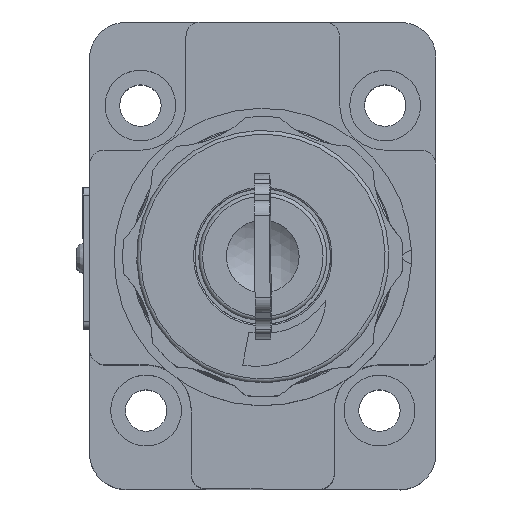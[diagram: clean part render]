
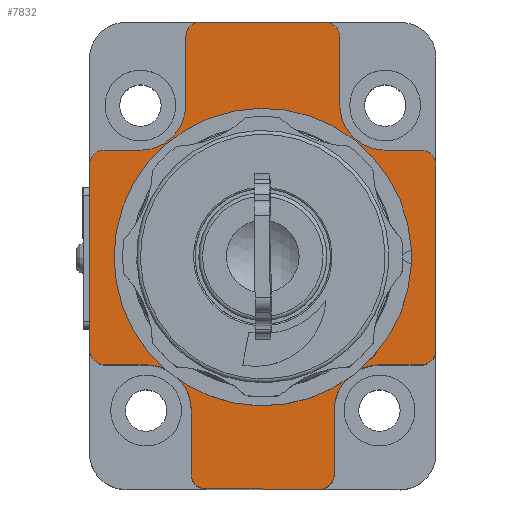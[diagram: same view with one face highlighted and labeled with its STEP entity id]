
A CAD part, top view. The second image highlights one B-rep face of the part: STEP entity #7832.
In plain terms, the highlighted planar face has unit normal (0, 0, 1).
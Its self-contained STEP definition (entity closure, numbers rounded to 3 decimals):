
#1129=PLANE('',#9496);
#1477=LINE('',#13211,#2039);
#1478=LINE('',#13215,#2040);
#1479=LINE('',#13219,#2041);
#1480=LINE('',#13223,#2042);
#1481=LINE('',#13227,#2043);
#1482=LINE('',#13231,#2044);
#1483=LINE('',#13235,#2045);
#1484=LINE('',#13239,#2046);
#1485=LINE('',#13243,#2047);
#1486=LINE('',#13247,#2048);
#1487=LINE('',#13251,#2049);
#1488=LINE('',#13255,#2050);
#2039=VECTOR('',#10732,1.);
#2040=VECTOR('',#10735,1.);
#2041=VECTOR('',#10738,1.);
#2042=VECTOR('',#10741,1.);
#2043=VECTOR('',#10744,1.);
#2044=VECTOR('',#10747,1.);
#2045=VECTOR('',#10750,1.);
#2046=VECTOR('',#10753,1.);
#2047=VECTOR('',#10756,1.);
#2048=VECTOR('',#10759,1.);
#2049=VECTOR('',#10762,1.);
#2050=VECTOR('',#10765,1.);
#2620=EDGE_LOOP('',(#3739));
#2621=EDGE_LOOP('',(#3740));
#2622=EDGE_LOOP('',(#3741,#3742,#3743,#3744,#3745,#3746,#3747,#3748,#3749,
#3750,#3751,#3752,#3753,#3754,#3755,#3756,#3757,#3758,#3759,#3760,#3761,
#3762,#3763,#3764));
#3739=ORIENTED_EDGE('',*,*,#5596,.T.);
#3740=ORIENTED_EDGE('',*,*,#5597,.T.);
#3741=ORIENTED_EDGE('',*,*,#5598,.T.);
#3742=ORIENTED_EDGE('',*,*,#5599,.T.);
#3743=ORIENTED_EDGE('',*,*,#5600,.T.);
#3744=ORIENTED_EDGE('',*,*,#5601,.T.);
#3745=ORIENTED_EDGE('',*,*,#5602,.T.);
#3746=ORIENTED_EDGE('',*,*,#5603,.T.);
#3747=ORIENTED_EDGE('',*,*,#5604,.T.);
#3748=ORIENTED_EDGE('',*,*,#5605,.T.);
#3749=ORIENTED_EDGE('',*,*,#5606,.T.);
#3750=ORIENTED_EDGE('',*,*,#5607,.T.);
#3751=ORIENTED_EDGE('',*,*,#5608,.T.);
#3752=ORIENTED_EDGE('',*,*,#5609,.T.);
#3753=ORIENTED_EDGE('',*,*,#5610,.T.);
#3754=ORIENTED_EDGE('',*,*,#5611,.T.);
#3755=ORIENTED_EDGE('',*,*,#5612,.T.);
#3756=ORIENTED_EDGE('',*,*,#5613,.T.);
#3757=ORIENTED_EDGE('',*,*,#5614,.T.);
#3758=ORIENTED_EDGE('',*,*,#5615,.T.);
#3759=ORIENTED_EDGE('',*,*,#5616,.T.);
#3760=ORIENTED_EDGE('',*,*,#5617,.T.);
#3761=ORIENTED_EDGE('',*,*,#5618,.T.);
#3762=ORIENTED_EDGE('',*,*,#5619,.T.);
#3763=ORIENTED_EDGE('',*,*,#5620,.T.);
#3764=ORIENTED_EDGE('',*,*,#5621,.T.);
#5596=EDGE_CURVE('',#8686,#8686,#6472,.T.);
#5597=EDGE_CURVE('',#8687,#8687,#6473,.T.);
#5598=EDGE_CURVE('',#8688,#8689,#6474,.T.);
#5599=EDGE_CURVE('',#8689,#8690,#1477,.T.);
#5600=EDGE_CURVE('',#8690,#8691,#6475,.T.);
#5601=EDGE_CURVE('',#8691,#8692,#1478,.T.);
#5602=EDGE_CURVE('',#8692,#8693,#6476,.T.);
#5603=EDGE_CURVE('',#8693,#8694,#1479,.T.);
#5604=EDGE_CURVE('',#8694,#8695,#6477,.T.);
#5605=EDGE_CURVE('',#8695,#8696,#1480,.T.);
#5606=EDGE_CURVE('',#8696,#8697,#6478,.T.);
#5607=EDGE_CURVE('',#8697,#8698,#1481,.T.);
#5608=EDGE_CURVE('',#8698,#8699,#6479,.T.);
#5609=EDGE_CURVE('',#8699,#8700,#1482,.T.);
#5610=EDGE_CURVE('',#8700,#8701,#6480,.T.);
#5611=EDGE_CURVE('',#8701,#8702,#1483,.T.);
#5612=EDGE_CURVE('',#8702,#8703,#6481,.T.);
#5613=EDGE_CURVE('',#8703,#8704,#1484,.T.);
#5614=EDGE_CURVE('',#8704,#8705,#6482,.T.);
#5615=EDGE_CURVE('',#8705,#8706,#1485,.T.);
#5616=EDGE_CURVE('',#8706,#8707,#6483,.T.);
#5617=EDGE_CURVE('',#8707,#8708,#1486,.T.);
#5618=EDGE_CURVE('',#8708,#8709,#6484,.T.);
#5619=EDGE_CURVE('',#8709,#8710,#1487,.T.);
#5620=EDGE_CURVE('',#8710,#8711,#6485,.T.);
#5621=EDGE_CURVE('',#8711,#8688,#1488,.T.);
#6472=CIRCLE('',#9482,1.5);
#6473=CIRCLE('',#9483,13.);
#6474=CIRCLE('',#9484,2.051);
#6475=CIRCLE('',#9485,1.957);
#6476=CIRCLE('',#9486,5.981);
#6477=CIRCLE('',#9487,1.915);
#6478=CIRCLE('',#9488,2.135);
#6479=CIRCLE('',#9489,5.998);
#6480=CIRCLE('',#9490,1.991);
#6481=CIRCLE('',#9491,2.033);
#6482=CIRCLE('',#9492,6.);
#6483=CIRCLE('',#9493,1.968);
#6484=CIRCLE('',#9494,2.003);
#6485=CIRCLE('',#9495,6.058);
#7832=ADVANCED_FACE('',(#8259,#8260,#8261),#1129,.T.);
#8259=FACE_BOUND('',#2620,.T.);
#8260=FACE_BOUND('',#2621,.T.);
#8261=FACE_BOUND('',#2622,.T.);
#8686=VERTEX_POINT('',#13205);
#8687=VERTEX_POINT('',#13207);
#8688=VERTEX_POINT('',#13209);
#8689=VERTEX_POINT('',#13210);
#8690=VERTEX_POINT('',#13212);
#8691=VERTEX_POINT('',#13214);
#8692=VERTEX_POINT('',#13216);
#8693=VERTEX_POINT('',#13218);
#8694=VERTEX_POINT('',#13220);
#8695=VERTEX_POINT('',#13222);
#8696=VERTEX_POINT('',#13224);
#8697=VERTEX_POINT('',#13226);
#8698=VERTEX_POINT('',#13228);
#8699=VERTEX_POINT('',#13230);
#8700=VERTEX_POINT('',#13232);
#8701=VERTEX_POINT('',#13234);
#8702=VERTEX_POINT('',#13236);
#8703=VERTEX_POINT('',#13238);
#8704=VERTEX_POINT('',#13240);
#8705=VERTEX_POINT('',#13242);
#8706=VERTEX_POINT('',#13244);
#8707=VERTEX_POINT('',#13246);
#8708=VERTEX_POINT('',#13248);
#8709=VERTEX_POINT('',#13250);
#8710=VERTEX_POINT('',#13252);
#8711=VERTEX_POINT('',#13254);
#9482=AXIS2_PLACEMENT_3D('',#13204,#10726,#10727);
#9483=AXIS2_PLACEMENT_3D('',#13206,#10728,#10729);
#9484=AXIS2_PLACEMENT_3D('',#13208,#10730,#10731);
#9485=AXIS2_PLACEMENT_3D('',#13213,#10733,#10734);
#9486=AXIS2_PLACEMENT_3D('',#13217,#10736,#10737);
#9487=AXIS2_PLACEMENT_3D('',#13221,#10739,#10740);
#9488=AXIS2_PLACEMENT_3D('',#13225,#10742,#10743);
#9489=AXIS2_PLACEMENT_3D('',#13229,#10745,#10746);
#9490=AXIS2_PLACEMENT_3D('',#13233,#10748,#10749);
#9491=AXIS2_PLACEMENT_3D('',#13237,#10751,#10752);
#9492=AXIS2_PLACEMENT_3D('',#13241,#10754,#10755);
#9493=AXIS2_PLACEMENT_3D('',#13245,#10757,#10758);
#9494=AXIS2_PLACEMENT_3D('',#13249,#10760,#10761);
#9495=AXIS2_PLACEMENT_3D('',#13253,#10763,#10764);
#9496=AXIS2_PLACEMENT_3D('',#13256,#10766,#10767);
#10726=DIRECTION('',(0.,0.,-1.));
#10727=DIRECTION('',(1.,0.,0.));
#10728=DIRECTION('',(0.,0.,-1.));
#10729=DIRECTION('',(1.,0.,0.));
#10730=DIRECTION('',(0.,0.,1.));
#10731=DIRECTION('',(1.,0.,0.));
#10732=DIRECTION('',(-1.,0.,0.));
#10733=DIRECTION('',(0.,0.,1.));
#10734=DIRECTION('',(1.,0.,0.));
#10735=DIRECTION('',(-0.005,-1.,0.));
#10736=DIRECTION('',(0.,0.,-1.));
#10737=DIRECTION('',(1.,0.,0.));
#10738=DIRECTION('',(-1.,-0.001,0.));
#10739=DIRECTION('',(0.,0.,1.));
#10740=DIRECTION('',(1.,0.,0.));
#10741=DIRECTION('',(0.,-1.,0.));
#10742=DIRECTION('',(0.,0.,1.));
#10743=DIRECTION('',(1.,0.,0.));
#10744=DIRECTION('',(1.,0.,0.));
#10745=DIRECTION('',(0.,0.,-1.));
#10746=DIRECTION('',(1.,0.,0.));
#10747=DIRECTION('',(0.,-1.,0.));
#10748=DIRECTION('',(0.,0.,1.));
#10749=DIRECTION('',(1.,0.,0.));
#10750=DIRECTION('',(1.,-0.001,0.));
#10751=DIRECTION('',(0.,0.,1.));
#10752=DIRECTION('',(1.,0.,0.));
#10753=DIRECTION('',(0.001,1.,0.));
#10754=DIRECTION('',(0.,0.,-1.));
#10755=DIRECTION('',(1.,0.,0.));
#10756=DIRECTION('',(1.,-0.003,0.));
#10757=DIRECTION('',(0.,0.,1.));
#10758=DIRECTION('',(1.,0.,0.));
#10759=DIRECTION('',(0.,1.,0.));
#10760=DIRECTION('',(0.,0.,1.));
#10761=DIRECTION('',(1.,0.,0.));
#10762=DIRECTION('',(-1.,0.,0.));
#10763=DIRECTION('',(0.,0.,-1.));
#10764=DIRECTION('',(1.,0.,0.));
#10765=DIRECTION('',(0.,1.,0.));
#10766=DIRECTION('',(0.,0.,1.));
#10767=DIRECTION('',(1.,0.,0.));
#13204=CARTESIAN_POINT('',(78.089,74.876,85.));
#13205=CARTESIAN_POINT('',(79.589,74.876,85.));
#13206=CARTESIAN_POINT('',(62.089,74.876,85.));
#13207=CARTESIAN_POINT('',(75.089,74.876,85.));
#13208=CARTESIAN_POINT('',(70.254,104.055,85.));
#13209=CARTESIAN_POINT('',(72.305,104.057,85.));
#13210=CARTESIAN_POINT('',(70.393,106.101,85.));
#13211=CARTESIAN_POINT('',(70.393,106.101,85.));
#13212=CARTESIAN_POINT('',(53.635,106.101,85.));
#13213=CARTESIAN_POINT('',(53.84,104.155,85.));
#13214=CARTESIAN_POINT('',(51.883,104.155,85.));
#13215=CARTESIAN_POINT('',(51.883,104.155,85.));
#13216=CARTESIAN_POINT('',(51.839,95.076,85.));
#13217=CARTESIAN_POINT('',(45.858,95.056,85.));
#13218=CARTESIAN_POINT('',(45.914,89.076,85.));
#13219=CARTESIAN_POINT('',(45.914,89.076,85.));
#13220=CARTESIAN_POINT('',(41.021,89.071,85.));
#13221=CARTESIAN_POINT('',(41.004,87.156,85.));
#13222=CARTESIAN_POINT('',(39.089,87.114,85.));
#13223=CARTESIAN_POINT('',(39.089,87.114,85.));
#13224=CARTESIAN_POINT('',(39.089,62.397,85.));
#13225=CARTESIAN_POINT('',(41.201,62.711,85.));
#13226=CARTESIAN_POINT('',(41.215,60.576,85.));
#13227=CARTESIAN_POINT('',(41.215,60.576,85.));
#13228=CARTESIAN_POINT('',(46.589,60.576,85.));
#13229=CARTESIAN_POINT('',(46.59,54.577,85.));
#13230=CARTESIAN_POINT('',(52.588,54.576,85.));
#13231=CARTESIAN_POINT('',(52.588,54.576,85.));
#13232=CARTESIAN_POINT('',(52.589,45.969,85.));
#13233=CARTESIAN_POINT('',(54.577,46.077,85.));
#13234=CARTESIAN_POINT('',(54.504,44.088,85.));
#13235=CARTESIAN_POINT('',(54.504,44.088,85.));
#13236=CARTESIAN_POINT('',(69.891,44.074,85.));
#13237=CARTESIAN_POINT('',(69.547,46.078,85.));
#13238=CARTESIAN_POINT('',(71.58,46.047,85.));
#13239=CARTESIAN_POINT('',(71.58,46.047,85.));
#13240=CARTESIAN_POINT('',(71.589,54.576,85.));
#13241=CARTESIAN_POINT('',(77.589,54.576,85.));
#13242=CARTESIAN_POINT('',(77.589,60.576,85.));
#13243=CARTESIAN_POINT('',(77.589,60.576,85.));
#13244=CARTESIAN_POINT('',(83.126,60.562,85.));
#13245=CARTESIAN_POINT('',(83.121,62.53,85.));
#13246=CARTESIAN_POINT('',(85.071,62.265,85.));
#13247=CARTESIAN_POINT('',(85.071,62.265,85.));
#13248=CARTESIAN_POINT('',(85.081,87.241,85.));
#13249=CARTESIAN_POINT('',(83.085,87.074,85.));
#13250=CARTESIAN_POINT('',(83.16,89.076,85.));
#13251=CARTESIAN_POINT('',(83.16,89.076,85.));
#13252=CARTESIAN_POINT('',(78.339,89.076,85.));
#13253=CARTESIAN_POINT('',(78.363,95.134,85.));
#13254=CARTESIAN_POINT('',(72.305,95.103,85.));
#13255=CARTESIAN_POINT('',(72.305,95.103,85.));
#13256=CARTESIAN_POINT('',(70.254,104.055,85.));
